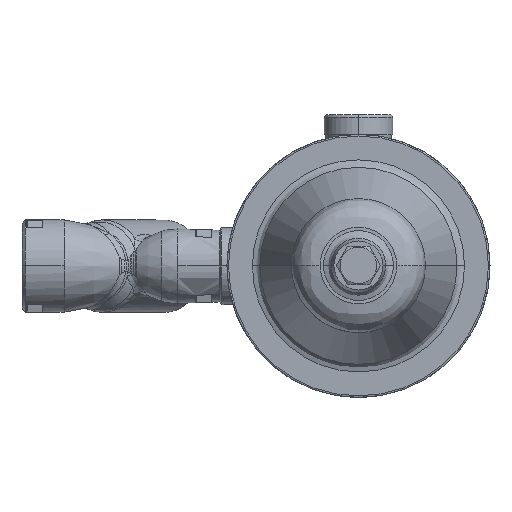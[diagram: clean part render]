
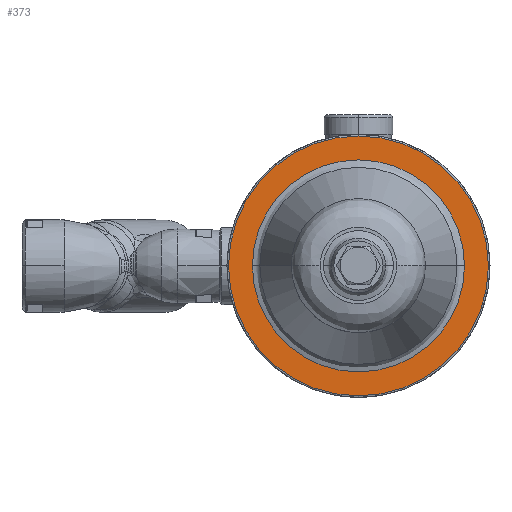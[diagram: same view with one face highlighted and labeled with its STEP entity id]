
A CAD part, top view. The second image highlights one B-rep face of the part: STEP entity #373.
In plain terms, the highlighted planar face has unit normal (0, 0, 1).
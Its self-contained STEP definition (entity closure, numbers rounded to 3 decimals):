
#373=ADVANCED_FACE('',(#3242,#3243),#3241,.T.);
#3241=PLANE('',#9454);
#3242=FACE_OUTER_BOUND('',#9455,.T.);
#3243=FACE_BOUND('',#9456,.T.);
#9451=CARTESIAN_POINT('',(-173.,-151.162,59.));
#9452=DIRECTION('',(0.,0.,1.));
#9453=DIRECTION('',(1.,0.,0.));
#9454=AXIS2_PLACEMENT_3D('',#9451,#9452,#9453);
#9455=EDGE_LOOP('',(#14238,#14239));
#9456=EDGE_LOOP('',(#14240,#14241));
#14238=ORIENTED_EDGE('',*,*,#16233,.T.);
#14239=ORIENTED_EDGE('',*,*,#16234,.T.);
#14240=ORIENTED_EDGE('',*,*,#16235,.T.);
#14241=ORIENTED_EDGE('',*,*,#16236,.T.);
#16233=EDGE_CURVE('',#22004,#22005,#22006,.T.);
#16234=EDGE_CURVE('',#22005,#22004,#22012,.T.);
#16235=EDGE_CURVE('',#22018,#22019,#22020,.T.);
#16236=EDGE_CURVE('',#22019,#22018,#22026,.T.);
#22004=VERTEX_POINT('',#29914);
#22005=VERTEX_POINT('',#29915);
#22006=CIRCLE('',#29919,81.5);
#22012=CIRCLE('',#29923,81.5);
#22018=VERTEX_POINT('',#29924);
#22019=VERTEX_POINT('',#29925);
#22020=CIRCLE('',#29929,66.501);
#22026=CIRCLE('',#29933,66.501);
#29914=CARTESIAN_POINT('',(81.5,0.,59.));
#29915=CARTESIAN_POINT('',(-81.5,0.,59.));
#29916=CARTESIAN_POINT('',(0.,0.,59.));
#29917=DIRECTION('',(0.,0.,1.));
#29918=DIRECTION('',(1.,0.,0.));
#29919=AXIS2_PLACEMENT_3D('',#29916,#29917,#29918);
#29920=CARTESIAN_POINT('',(0.,0.,59.));
#29921=DIRECTION('',(0.,0.,1.));
#29922=DIRECTION('',(1.,0.,0.));
#29923=AXIS2_PLACEMENT_3D('',#29920,#29921,#29922);
#29924=CARTESIAN_POINT('',(66.501,0.,59.));
#29925=CARTESIAN_POINT('',(-66.501,0.,59.));
#29926=CARTESIAN_POINT('',(0.,0.,59.));
#29927=DIRECTION('',(0.,0.,-1.));
#29928=DIRECTION('',(1.,0.,0.));
#29929=AXIS2_PLACEMENT_3D('',#29926,#29927,#29928);
#29930=CARTESIAN_POINT('',(0.,0.,59.));
#29931=DIRECTION('',(0.,0.,-1.));
#29932=DIRECTION('',(1.,0.,0.));
#29933=AXIS2_PLACEMENT_3D('',#29930,#29931,#29932);
